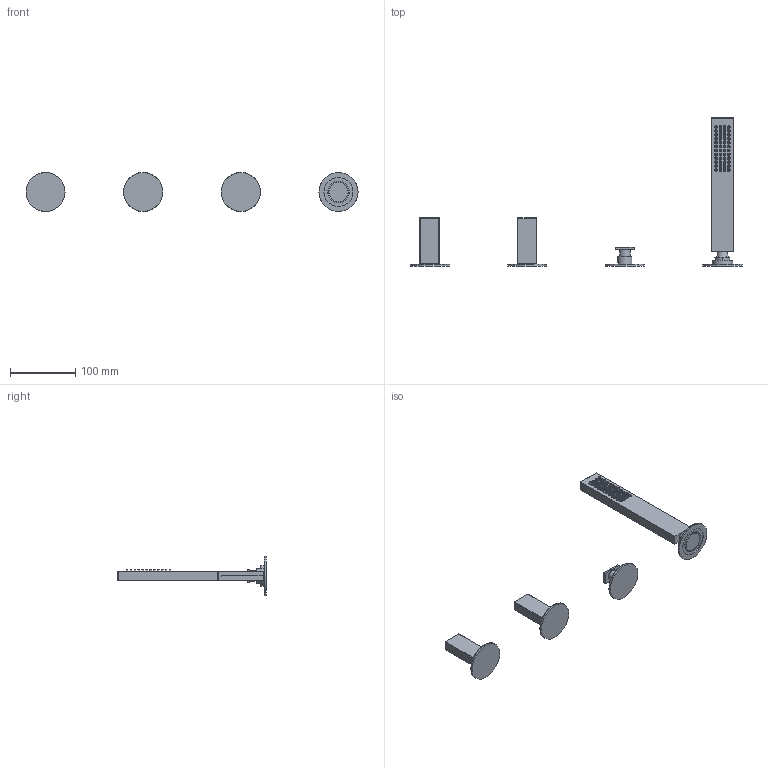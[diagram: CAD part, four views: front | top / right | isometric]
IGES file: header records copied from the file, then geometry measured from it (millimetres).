
Start section:  PTC IGES file: 53028A.igs
Global section: file name: 53028A.igs; native system: Creo Parametric by PTC Inc.; preprocessor: 2018100; author: carloff; organization: Unknown; date: 20200917.111714; units: millimetre
Bounding box: 510 x 227.5 x 60 mm (x, y, z)
Surface area: 70039.6 mm2 (no closed solid volume)
Topology: 0 solids, 0 shells, 924 faces, 5352 edges, 5348 vertices
Faces by surface type: revolution 520, bspline 404
